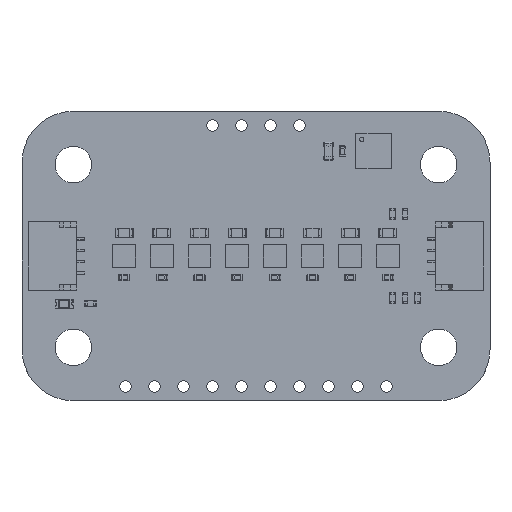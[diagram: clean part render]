
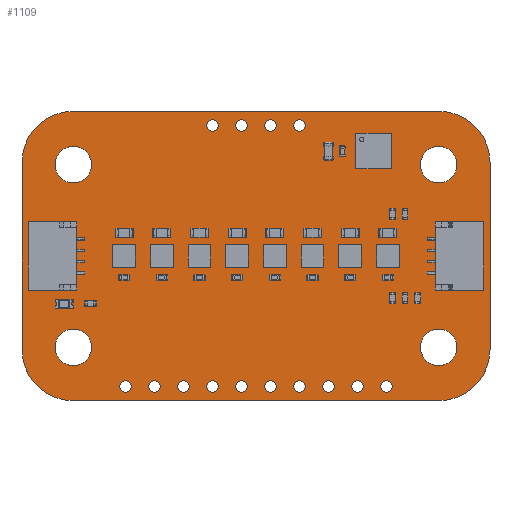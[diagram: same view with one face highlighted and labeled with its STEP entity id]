
A CAD part, top view. The second image highlights one B-rep face of the part: STEP entity #1109.
In plain terms, the highlighted planar face has unit normal (0, 0, 1).
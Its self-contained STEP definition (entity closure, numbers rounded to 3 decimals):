
#196 = VERTEX_POINT('',#197);
#197 = CARTESIAN_POINT('',(0.,4.5,1.606));
#203 = EDGE_CURVE('',#196,#204,#206,.T.);
#204 = VERTEX_POINT('',#205);
#205 = CARTESIAN_POINT('',(4.5,0.,1.606));
#206 = CIRCLE('',#207,4.5);
#207 = AXIS2_PLACEMENT_3D('',#208,#209,#210);
#208 = CARTESIAN_POINT('',(4.5,4.5,1.606));
#209 = DIRECTION('',(0.,0.,1.));
#210 = DIRECTION('',(-1.,0.,0.));
#236 = EDGE_CURVE('',#204,#237,#239,.T.);
#237 = VERTEX_POINT('',#238);
#238 = CARTESIAN_POINT('',(36.5,0.,1.606));
#239 = LINE('',#240,#241);
#240 = CARTESIAN_POINT('',(4.5,0.,1.606));
#241 = VECTOR('',#242,1.);
#242 = DIRECTION('',(1.,0.,0.));
#267 = EDGE_CURVE('',#237,#268,#270,.T.);
#268 = VERTEX_POINT('',#269);
#269 = CARTESIAN_POINT('',(41.,4.5,1.606));
#270 = CIRCLE('',#271,4.5);
#271 = AXIS2_PLACEMENT_3D('',#272,#273,#274);
#272 = CARTESIAN_POINT('',(36.5,4.5,1.606));
#273 = DIRECTION('',(0.,0.,1.));
#274 = DIRECTION('',(0.,-1.,0.));
#300 = EDGE_CURVE('',#268,#301,#303,.T.);
#301 = VERTEX_POINT('',#302);
#302 = CARTESIAN_POINT('',(41.,20.86,1.606));
#303 = LINE('',#304,#305);
#304 = CARTESIAN_POINT('',(41.,4.5,1.606));
#305 = VECTOR('',#306,1.);
#306 = DIRECTION('',(0.,1.,0.));
#331 = EDGE_CURVE('',#301,#332,#334,.T.);
#332 = VERTEX_POINT('',#333);
#333 = CARTESIAN_POINT('',(36.5,25.36,1.606));
#334 = CIRCLE('',#335,4.5);
#335 = AXIS2_PLACEMENT_3D('',#336,#337,#338);
#336 = CARTESIAN_POINT('',(36.5,20.86,1.606));
#337 = DIRECTION('',(0.,0.,1.));
#338 = DIRECTION('',(1.,0.,0.));
#364 = EDGE_CURVE('',#332,#365,#367,.T.);
#365 = VERTEX_POINT('',#366);
#366 = CARTESIAN_POINT('',(4.5,25.36,1.606));
#367 = LINE('',#368,#369);
#368 = CARTESIAN_POINT('',(36.5,25.36,1.606));
#369 = VECTOR('',#370,1.);
#370 = DIRECTION('',(-1.,0.,0.));
#395 = EDGE_CURVE('',#365,#396,#398,.T.);
#396 = VERTEX_POINT('',#397);
#397 = CARTESIAN_POINT('',(0.,20.86,1.606));
#398 = CIRCLE('',#399,4.5);
#399 = AXIS2_PLACEMENT_3D('',#400,#401,#402);
#400 = CARTESIAN_POINT('',(4.5,20.86,1.606));
#401 = DIRECTION('',(0.,0.,1.));
#402 = DIRECTION('',(0.,1.,-0.));
#428 = EDGE_CURVE('',#396,#196,#429,.T.);
#429 = LINE('',#430,#431);
#430 = CARTESIAN_POINT('',(0.,20.86,1.606));
#431 = VECTOR('',#432,1.);
#432 = DIRECTION('',(0.,-1.,0.));
#452 = VERTEX_POINT('',#453);
#453 = CARTESIAN_POINT('',(12.11,1.25,1.606));
#459 = EDGE_CURVE('',#452,#452,#460,.T.);
#460 = CIRCLE('',#461,0.5);
#461 = AXIS2_PLACEMENT_3D('',#462,#463,#464);
#462 = CARTESIAN_POINT('',(11.61,1.25,1.606));
#463 = DIRECTION('',(0.,0.,1.));
#464 = DIRECTION('',(1.,0.,-0.));
#485 = VERTEX_POINT('',#486);
#486 = CARTESIAN_POINT('',(9.57,1.25,1.606));
#492 = EDGE_CURVE('',#485,#485,#493,.T.);
#493 = CIRCLE('',#494,0.5);
#494 = AXIS2_PLACEMENT_3D('',#495,#496,#497);
#495 = CARTESIAN_POINT('',(9.07,1.25,1.606));
#496 = DIRECTION('',(0.,0.,1.));
#497 = DIRECTION('',(1.,0.,-0.));
#518 = VERTEX_POINT('',#519);
#519 = CARTESIAN_POINT('',(17.19,1.25,1.606));
#525 = EDGE_CURVE('',#518,#518,#526,.T.);
#526 = CIRCLE('',#527,0.5);
#527 = AXIS2_PLACEMENT_3D('',#528,#529,#530);
#528 = CARTESIAN_POINT('',(16.69,1.25,1.606));
#529 = DIRECTION('',(0.,0.,1.));
#530 = DIRECTION('',(1.,0.,-0.));
#551 = VERTEX_POINT('',#552);
#552 = CARTESIAN_POINT('',(14.65,1.25,1.606));
#558 = EDGE_CURVE('',#551,#551,#559,.T.);
#559 = CIRCLE('',#560,0.5);
#560 = AXIS2_PLACEMENT_3D('',#561,#562,#563);
#561 = CARTESIAN_POINT('',(14.15,1.25,1.606));
#562 = DIRECTION('',(0.,0.,1.));
#563 = DIRECTION('',(1.,0.,-0.));
#584 = VERTEX_POINT('',#585);
#585 = CARTESIAN_POINT('',(6.1,4.68,1.606));
#591 = EDGE_CURVE('',#584,#584,#592,.T.);
#592 = CIRCLE('',#593,1.6);
#593 = AXIS2_PLACEMENT_3D('',#594,#595,#596);
#594 = CARTESIAN_POINT('',(4.5,4.68,1.606));
#595 = DIRECTION('',(0.,0.,1.));
#596 = DIRECTION('',(1.,0.,-0.));
#617 = VERTEX_POINT('',#618);
#618 = CARTESIAN_POINT('',(6.1,20.68,1.606));
#624 = EDGE_CURVE('',#617,#617,#625,.T.);
#625 = CIRCLE('',#626,1.6);
#626 = AXIS2_PLACEMENT_3D('',#627,#628,#629);
#627 = CARTESIAN_POINT('',(4.5,20.68,1.606));
#628 = DIRECTION('',(0.,0.,1.));
#629 = DIRECTION('',(1.,0.,-0.));
#650 = VERTEX_POINT('',#651);
#651 = CARTESIAN_POINT('',(19.73,1.25,1.606));
#657 = EDGE_CURVE('',#650,#650,#658,.T.);
#658 = CIRCLE('',#659,0.5);
#659 = AXIS2_PLACEMENT_3D('',#660,#661,#662);
#660 = CARTESIAN_POINT('',(19.23,1.25,1.606));
#661 = DIRECTION('',(0.,0.,1.));
#662 = DIRECTION('',(1.,0.,-0.));
#683 = VERTEX_POINT('',#684);
#684 = CARTESIAN_POINT('',(17.19,24.11,1.606));
#690 = EDGE_CURVE('',#683,#683,#691,.T.);
#691 = CIRCLE('',#692,0.5);
#692 = AXIS2_PLACEMENT_3D('',#693,#694,#695);
#693 = CARTESIAN_POINT('',(16.69,24.11,1.606));
#694 = DIRECTION('',(0.,0.,1.));
#695 = DIRECTION('',(1.,0.,-0.));
#716 = VERTEX_POINT('',#717);
#717 = CARTESIAN_POINT('',(19.73,24.11,1.606));
#723 = EDGE_CURVE('',#716,#716,#724,.T.);
#724 = CIRCLE('',#725,0.5);
#725 = AXIS2_PLACEMENT_3D('',#726,#727,#728);
#726 = CARTESIAN_POINT('',(19.23,24.11,1.606));
#727 = DIRECTION('',(0.,0.,1.));
#728 = DIRECTION('',(1.,0.,-0.));
#749 = VERTEX_POINT('',#750);
#750 = CARTESIAN_POINT('',(24.81,1.25,1.606));
#756 = EDGE_CURVE('',#749,#749,#757,.T.);
#757 = CIRCLE('',#758,0.5);
#758 = AXIS2_PLACEMENT_3D('',#759,#760,#761);
#759 = CARTESIAN_POINT('',(24.31,1.25,1.606));
#760 = DIRECTION('',(0.,0.,1.));
#761 = DIRECTION('',(1.,0.,-0.));
#782 = VERTEX_POINT('',#783);
#783 = CARTESIAN_POINT('',(22.27,1.25,1.606));
#789 = EDGE_CURVE('',#782,#782,#790,.T.);
#790 = CIRCLE('',#791,0.5);
#791 = AXIS2_PLACEMENT_3D('',#792,#793,#794);
#792 = CARTESIAN_POINT('',(21.77,1.25,1.606));
#793 = DIRECTION('',(0.,0.,1.));
#794 = DIRECTION('',(1.,0.,-0.));
#815 = VERTEX_POINT('',#816);
#816 = CARTESIAN_POINT('',(29.89,1.25,1.606));
#822 = EDGE_CURVE('',#815,#815,#823,.T.);
#823 = CIRCLE('',#824,0.5);
#824 = AXIS2_PLACEMENT_3D('',#825,#826,#827);
#825 = CARTESIAN_POINT('',(29.39,1.25,1.606));
#826 = DIRECTION('',(0.,0.,1.));
#827 = DIRECTION('',(1.,0.,-0.));
#848 = VERTEX_POINT('',#849);
#849 = CARTESIAN_POINT('',(27.35,1.25,1.606));
#855 = EDGE_CURVE('',#848,#848,#856,.T.);
#856 = CIRCLE('',#857,0.5);
#857 = AXIS2_PLACEMENT_3D('',#858,#859,#860);
#858 = CARTESIAN_POINT('',(26.85,1.25,1.606));
#859 = DIRECTION('',(0.,0.,1.));
#860 = DIRECTION('',(1.,0.,-0.));
#881 = VERTEX_POINT('',#882);
#882 = CARTESIAN_POINT('',(24.81,24.11,1.606));
#888 = EDGE_CURVE('',#881,#881,#889,.T.);
#889 = CIRCLE('',#890,0.5);
#890 = AXIS2_PLACEMENT_3D('',#891,#892,#893);
#891 = CARTESIAN_POINT('',(24.31,24.11,1.606));
#892 = DIRECTION('',(0.,0.,1.));
#893 = DIRECTION('',(1.,0.,-0.));
#914 = VERTEX_POINT('',#915);
#915 = CARTESIAN_POINT('',(22.27,24.11,1.606));
#921 = EDGE_CURVE('',#914,#914,#922,.T.);
#922 = CIRCLE('',#923,0.5);
#923 = AXIS2_PLACEMENT_3D('',#924,#925,#926);
#924 = CARTESIAN_POINT('',(21.77,24.11,1.606));
#925 = DIRECTION('',(0.,0.,1.));
#926 = DIRECTION('',(1.,0.,-0.));
#947 = VERTEX_POINT('',#948);
#948 = CARTESIAN_POINT('',(32.43,1.25,1.606));
#954 = EDGE_CURVE('',#947,#947,#955,.T.);
#955 = CIRCLE('',#956,0.5);
#956 = AXIS2_PLACEMENT_3D('',#957,#958,#959);
#957 = CARTESIAN_POINT('',(31.93,1.25,1.606));
#958 = DIRECTION('',(0.,0.,1.));
#959 = DIRECTION('',(1.,0.,-0.));
#980 = VERTEX_POINT('',#981);
#981 = CARTESIAN_POINT('',(38.1,20.68,1.606));
#987 = EDGE_CURVE('',#980,#980,#988,.T.);
#988 = CIRCLE('',#989,1.6);
#989 = AXIS2_PLACEMENT_3D('',#990,#991,#992);
#990 = CARTESIAN_POINT('',(36.5,20.68,1.606));
#991 = DIRECTION('',(0.,0.,1.));
#992 = DIRECTION('',(1.,0.,-0.));
#1013 = VERTEX_POINT('',#1014);
#1014 = CARTESIAN_POINT('',(38.1,4.68,1.606));
#1020 = EDGE_CURVE('',#1013,#1013,#1021,.T.);
#1021 = CIRCLE('',#1022,1.6);
#1022 = AXIS2_PLACEMENT_3D('',#1023,#1024,#1025);
#1023 = CARTESIAN_POINT('',(36.5,4.68,1.606));
#1024 = DIRECTION('',(0.,0.,1.));
#1025 = DIRECTION('',(1.,0.,-0.));
#1109 = ADVANCED_FACE('',(#1110,#1120,#1123,#1126,#1129,#1132,#1135,
    #1138,#1141,#1144,#1147,#1150,#1153,#1156,#1159,#1162,#1165,#1168,
    #1171),#1174,.T.);
#1110 = FACE_BOUND('',#1111,.T.);
#1111 = EDGE_LOOP('',(#1112,#1113,#1114,#1115,#1116,#1117,#1118,#1119));
#1112 = ORIENTED_EDGE('',*,*,#203,.T.);
#1113 = ORIENTED_EDGE('',*,*,#236,.T.);
#1114 = ORIENTED_EDGE('',*,*,#267,.T.);
#1115 = ORIENTED_EDGE('',*,*,#300,.T.);
#1116 = ORIENTED_EDGE('',*,*,#331,.T.);
#1117 = ORIENTED_EDGE('',*,*,#364,.T.);
#1118 = ORIENTED_EDGE('',*,*,#395,.T.);
#1119 = ORIENTED_EDGE('',*,*,#428,.T.);
#1120 = FACE_BOUND('',#1121,.T.);
#1121 = EDGE_LOOP('',(#1122));
#1122 = ORIENTED_EDGE('',*,*,#459,.F.);
#1123 = FACE_BOUND('',#1124,.T.);
#1124 = EDGE_LOOP('',(#1125));
#1125 = ORIENTED_EDGE('',*,*,#492,.F.);
#1126 = FACE_BOUND('',#1127,.T.);
#1127 = EDGE_LOOP('',(#1128));
#1128 = ORIENTED_EDGE('',*,*,#525,.F.);
#1129 = FACE_BOUND('',#1130,.T.);
#1130 = EDGE_LOOP('',(#1131));
#1131 = ORIENTED_EDGE('',*,*,#558,.F.);
#1132 = FACE_BOUND('',#1133,.T.);
#1133 = EDGE_LOOP('',(#1134));
#1134 = ORIENTED_EDGE('',*,*,#591,.F.);
#1135 = FACE_BOUND('',#1136,.T.);
#1136 = EDGE_LOOP('',(#1137));
#1137 = ORIENTED_EDGE('',*,*,#624,.F.);
#1138 = FACE_BOUND('',#1139,.T.);
#1139 = EDGE_LOOP('',(#1140));
#1140 = ORIENTED_EDGE('',*,*,#657,.F.);
#1141 = FACE_BOUND('',#1142,.T.);
#1142 = EDGE_LOOP('',(#1143));
#1143 = ORIENTED_EDGE('',*,*,#690,.F.);
#1144 = FACE_BOUND('',#1145,.T.);
#1145 = EDGE_LOOP('',(#1146));
#1146 = ORIENTED_EDGE('',*,*,#723,.F.);
#1147 = FACE_BOUND('',#1148,.T.);
#1148 = EDGE_LOOP('',(#1149));
#1149 = ORIENTED_EDGE('',*,*,#756,.F.);
#1150 = FACE_BOUND('',#1151,.T.);
#1151 = EDGE_LOOP('',(#1152));
#1152 = ORIENTED_EDGE('',*,*,#789,.F.);
#1153 = FACE_BOUND('',#1154,.T.);
#1154 = EDGE_LOOP('',(#1155));
#1155 = ORIENTED_EDGE('',*,*,#822,.F.);
#1156 = FACE_BOUND('',#1157,.T.);
#1157 = EDGE_LOOP('',(#1158));
#1158 = ORIENTED_EDGE('',*,*,#855,.F.);
#1159 = FACE_BOUND('',#1160,.T.);
#1160 = EDGE_LOOP('',(#1161));
#1161 = ORIENTED_EDGE('',*,*,#888,.F.);
#1162 = FACE_BOUND('',#1163,.T.);
#1163 = EDGE_LOOP('',(#1164));
#1164 = ORIENTED_EDGE('',*,*,#921,.F.);
#1165 = FACE_BOUND('',#1166,.T.);
#1166 = EDGE_LOOP('',(#1167));
#1167 = ORIENTED_EDGE('',*,*,#954,.F.);
#1168 = FACE_BOUND('',#1169,.T.);
#1169 = EDGE_LOOP('',(#1170));
#1170 = ORIENTED_EDGE('',*,*,#987,.F.);
#1171 = FACE_BOUND('',#1172,.T.);
#1172 = EDGE_LOOP('',(#1173));
#1173 = ORIENTED_EDGE('',*,*,#1020,.F.);
#1174 = PLANE('',#1175);
#1175 = AXIS2_PLACEMENT_3D('',#1176,#1177,#1178);
#1176 = CARTESIAN_POINT('',(20.5,12.68,1.606));
#1177 = DIRECTION('',(0.,0.,1.));
#1178 = DIRECTION('',(1.,0.,-0.));
